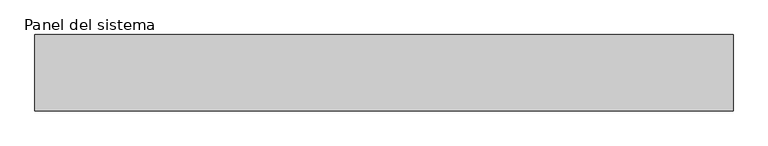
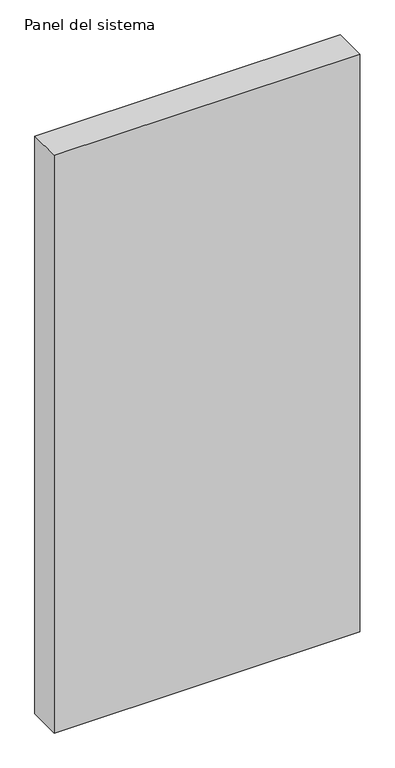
"""IFC4 building model written with IfcOpenShell, lengths in millimetres: plate geometry, Panel del sistema : Hiansa Panel - Fachada Panel FRIGO - 120mm."""

from ifc_helpers import new_model, si_unit, origin, origin_with_axes, place, context, project, spatial, polyline, outline, extrude, source, transform, mapped, element, save


def panel_del_sistema_3f4cdfb2(model_context):
    return source(origin(), model_context, "Body", "SweptSolid", [
        extrude(outline(polyline([(550.0000002, -120.0), (-550.0000002, -120.0), (-550.0000002, 0.0), (550.0000002, 0.0), (550.0000002, -120.0)])), origin_with_axes(), (0.0, 0.0, 1.0), 2200.0),
    ])


if __name__ == "__main__":
    model = new_model("IFC4")
    model_context = context("Model", 3, world=origin())
    ifc_project = project(units=[si_unit("LENGTHUNIT", "METRE", prefix="MILLI")], contexts=[model_context])
    site = spatial("IfcSite", under=ifc_project)
    building = spatial("IfcBuilding", under=site)
    placement = place(None, origin())
    panel_del_sistema_shape = panel_del_sistema_3f4cdfb2(model_context)
    element("IfcPlate", 1, ObjectType="Panel del sistema : Hiansa Panel - Fachada Panel FRIGO - 120mm", at=placement, inside=building, context=model_context, shape_type="MappedRepresentation", body=[
        mapped(panel_del_sistema_shape, transform((0.0, 0.0, 0.0), x_axis=(1.0, 0.0, 0.0), y_axis=(0.0, 1.0, 0.0), z_axis=(0.0, 0.0, 1.0))),
    ])
    save(model, "model.ifc")
